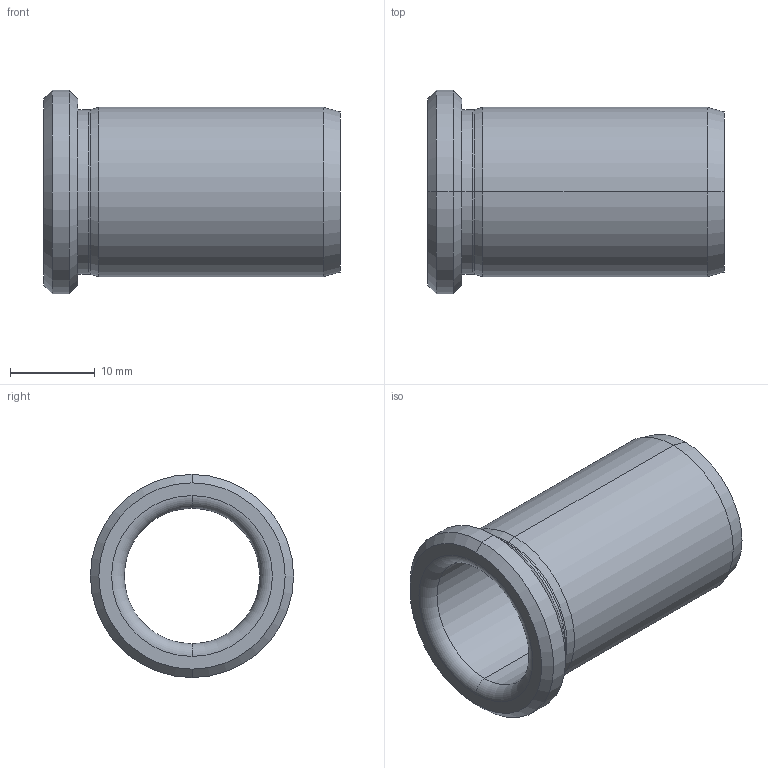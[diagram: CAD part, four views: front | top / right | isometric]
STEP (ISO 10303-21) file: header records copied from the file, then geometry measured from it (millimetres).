
FILE_DESCRIPTION (( 'STEP AP214' ), '1' );
FILE_NAME ('BRCVBG-16x35.STEP', '2020-07-21T12:03:41', ( '' ), ( '' ), 'SwSTEP 2.0', 'SolidWorks 2018', '' );
FILE_SCHEMA (( 'AUTOMOTIVE_DESIGN' ));
Length unit declared in the file: millimetre
Products named in the file (1): BRCVBG-16x35
Bounding box: 35 x 24 x 24 mm (x, y, z)
Volume: 4343.6 mm3; surface area: 4374.5 mm2
Topology: 1 solids, 1 shells, 23 faces, 46 edges, 26 vertices
Faces by surface type: cone 8, cylinder 8, torus 4, plane 3
Entity records: 636 total; most frequent: DIRECTION 124, CARTESIAN_POINT 96, ORIENTED_EDGE 92, AXIS2_PLACEMENT_3D 54, EDGE_CURVE 46, CIRCLE 30, EDGE_LOOP 26, VERTEX_POINT 26
